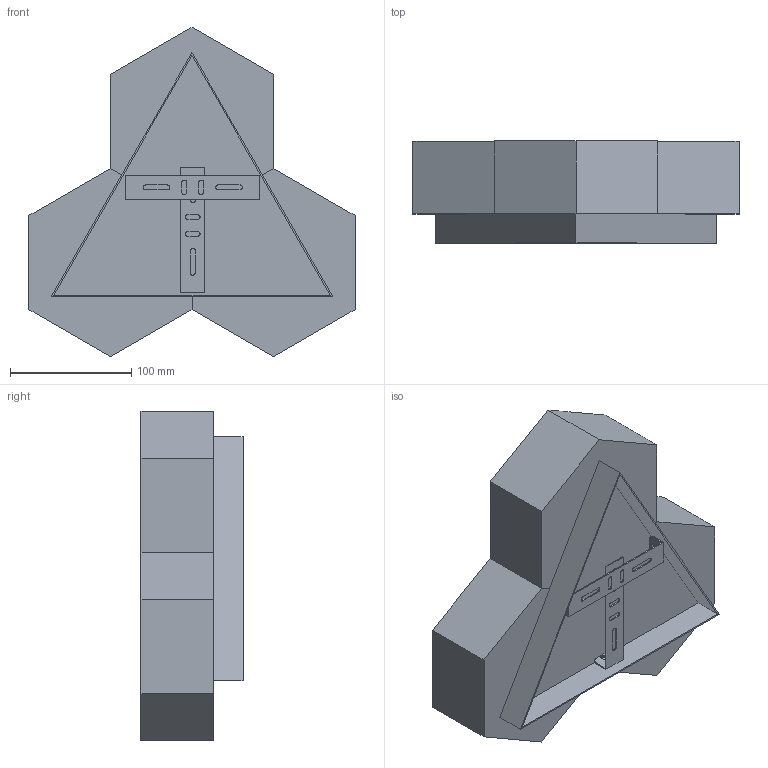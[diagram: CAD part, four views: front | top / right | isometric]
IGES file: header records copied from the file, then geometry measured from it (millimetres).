
Start section: SolidWorks IGES file using analytic representation for surfaces
Global section: file name: F:\燠隴矨\3D\2026-3\Honeycomb Travertine Ceiling Lamp-3Lights A .IGS,15; native system: HSolidWorks 2022; preprocessor: SolidWorks 2022; author: MyPC; date: 260312.091426; units: millimetre
Bounding box: 268.47 x 84 x 271.25 mm (x, y, z)
Surface area: 381137 mm2 (no closed solid volume)
Topology: 0 solids, 0 shells, 147 faces, 1840 edges, 1840 vertices
Faces by surface type: bspline 106, revolution 41
